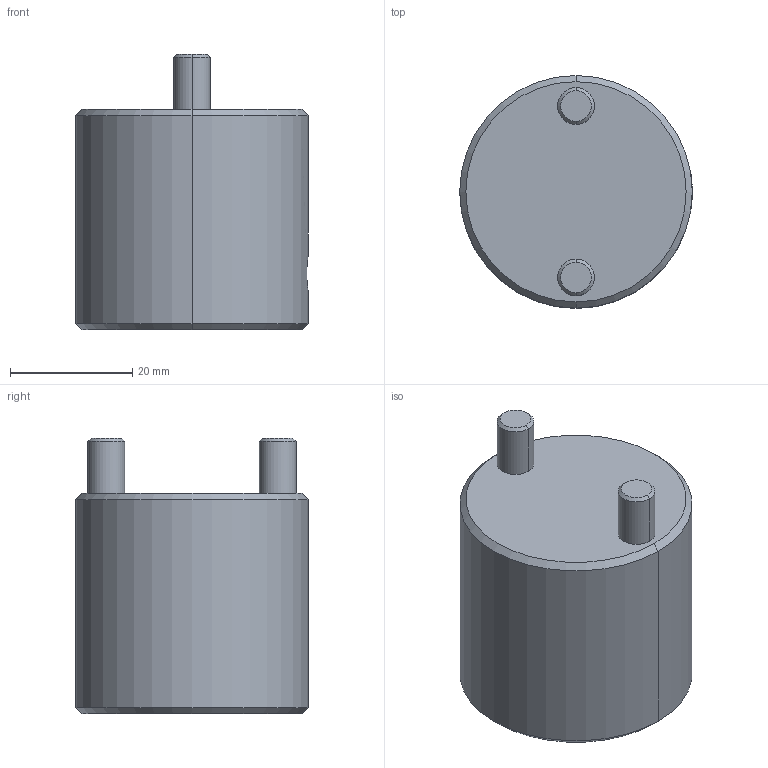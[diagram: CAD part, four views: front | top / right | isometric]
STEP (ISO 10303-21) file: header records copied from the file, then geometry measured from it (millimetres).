
FILE_DESCRIPTION((''),'2;1');
FILE_NAME('CS1020','2018-01-21T',('MANU'),(''),'PRO/ENGINEER BY PARAMETRIC TECHNOLOGY CORPORATION, 2012130','PRO/ENGINEER BY PARAMETRIC TECHNOLOGY CORPORATION, 2012130','');
FILE_SCHEMA(('CONFIG_CONTROL_DESIGN'));
Length unit declared in the file: millimetre
Products named in the file (1): CS1020
Bounding box: 38 x 38 x 45 mm (x, y, z)
Volume: 31476.5 mm3; surface area: 8784.4 mm2
Topology: 1 solids, 1 shells, 23 faces, 47 edges, 28 vertices
Faces by surface type: cylinder 10, cone 8, plane 5
Entity records: 739 total; most frequent: CARTESIAN_POINT 204, DIRECTION 109, ORIENTED_EDGE 94, EDGE_CURVE 47, AXIS2_PLACEMENT_3D 45, VERTEX_POINT 28, EDGE_LOOP 27, FACE_OUTER_BOUND 23
